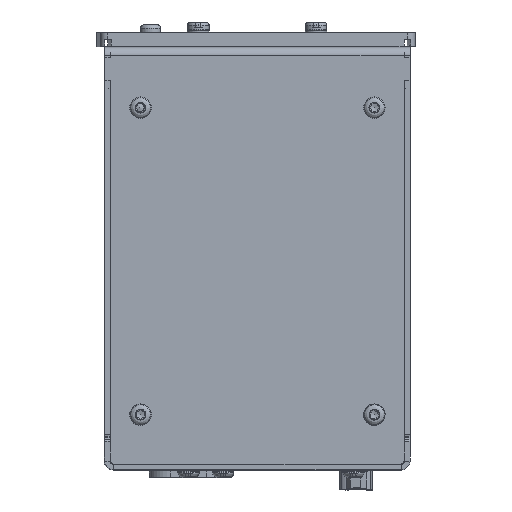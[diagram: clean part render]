
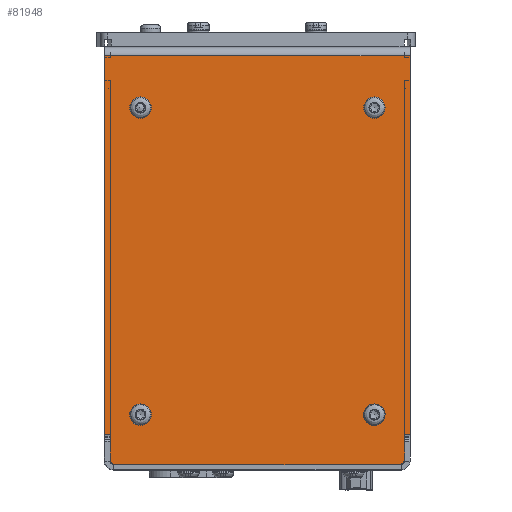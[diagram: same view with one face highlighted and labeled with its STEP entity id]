
A CAD part, front view. The second image highlights one B-rep face of the part: STEP entity #81948.
In plain terms, the highlighted planar face has unit normal (0.002, -1, 0).
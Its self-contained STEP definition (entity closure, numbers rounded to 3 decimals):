
#2097=FACE_BOUND('',#28586,.T.);
#2098=FACE_BOUND('',#28587,.T.);
#2099=FACE_BOUND('',#28588,.T.);
#2100=FACE_BOUND('',#28589,.T.);
#2948=PLANE('',#86677);
#6589=LINE('',#119085,#15241);
#6643=LINE('',#119250,#15295);
#6647=LINE('',#119257,#15299);
#6648=LINE('',#119260,#15300);
#6649=LINE('',#119262,#15301);
#6650=LINE('',#119264,#15302);
#6651=LINE('',#119266,#15303);
#6652=LINE('',#119268,#15304);
#6653=LINE('',#119269,#15305);
#6654=LINE('',#119270,#15306);
#15241=VECTOR('',#94869,10.);
#15295=VECTOR('',#95023,10.);
#15299=VECTOR('',#95029,10.);
#15300=VECTOR('',#95032,10.);
#15301=VECTOR('',#95033,10.);
#15302=VECTOR('',#95034,10.);
#15303=VECTOR('',#95035,10.);
#15304=VECTOR('',#95036,10.);
#15305=VECTOR('',#95037,10.);
#15306=VECTOR('',#95038,10.);
#24221=FACE_OUTER_BOUND('',#28585,.T.);
#28585=EDGE_LOOP('',(#57820,#57821,#57822,#57823,#57824,#57825,#57826,#57827,
#57828,#57829,#57830,#57831));
#28586=EDGE_LOOP('',(#57832));
#28587=EDGE_LOOP('',(#57833));
#28588=EDGE_LOOP('',(#57834));
#28589=EDGE_LOOP('',(#57835));
#32784=CIRCLE('',#86439,3.);
#32799=CIRCLE('',#86477,3.);
#32814=CIRCLE('',#86515,3.);
#32829=CIRCLE('',#86553,3.);
#32887=CIRCLE('',#86674,1.5);
#32889=CIRCLE('',#86678,1.5);
#35657=VERTEX_POINT('',#118377);
#35689=VERTEX_POINT('',#118537);
#35721=VERTEX_POINT('',#118697);
#35753=VERTEX_POINT('',#118857);
#35802=VERTEX_POINT('',#119077);
#35805=VERTEX_POINT('',#119083);
#35862=VERTEX_POINT('',#119240);
#35863=VERTEX_POINT('',#119242);
#35864=VERTEX_POINT('',#119246);
#35866=VERTEX_POINT('',#119249);
#35868=VERTEX_POINT('',#119256);
#35869=VERTEX_POINT('',#119258);
#35870=VERTEX_POINT('',#119261);
#35871=VERTEX_POINT('',#119263);
#35872=VERTEX_POINT('',#119265);
#35873=VERTEX_POINT('',#119267);
#44125=EDGE_CURVE('',#35657,#35657,#32784,.T.);
#44179=EDGE_CURVE('',#35689,#35689,#32799,.T.);
#44233=EDGE_CURVE('',#35721,#35721,#32814,.T.);
#44287=EDGE_CURVE('',#35753,#35753,#32829,.T.);
#44373=EDGE_CURVE('',#35802,#35805,#6589,.T.);
#44448=EDGE_CURVE('',#35862,#35863,#32887,.T.);
#44451=EDGE_CURVE('',#35866,#35864,#6643,.T.);
#44455=EDGE_CURVE('',#35862,#35868,#6647,.T.);
#44456=EDGE_CURVE('',#35869,#35868,#32889,.T.);
#44457=EDGE_CURVE('',#35869,#35802,#6648,.T.);
#44458=EDGE_CURVE('',#35805,#35870,#6649,.T.);
#44459=EDGE_CURVE('',#35871,#35870,#6650,.T.);
#44460=EDGE_CURVE('',#35871,#35872,#6651,.T.);
#44461=EDGE_CURVE('',#35873,#35872,#6652,.T.);
#44462=EDGE_CURVE('',#35873,#35866,#6653,.T.);
#44463=EDGE_CURVE('',#35863,#35864,#6654,.T.);
#57820=ORIENTED_EDGE('',*,*,#44448,.F.);
#57821=ORIENTED_EDGE('',*,*,#44455,.T.);
#57822=ORIENTED_EDGE('',*,*,#44456,.F.);
#57823=ORIENTED_EDGE('',*,*,#44457,.T.);
#57824=ORIENTED_EDGE('',*,*,#44373,.T.);
#57825=ORIENTED_EDGE('',*,*,#44458,.T.);
#57826=ORIENTED_EDGE('',*,*,#44459,.F.);
#57827=ORIENTED_EDGE('',*,*,#44460,.T.);
#57828=ORIENTED_EDGE('',*,*,#44461,.F.);
#57829=ORIENTED_EDGE('',*,*,#44462,.T.);
#57830=ORIENTED_EDGE('',*,*,#44451,.T.);
#57831=ORIENTED_EDGE('',*,*,#44463,.F.);
#57832=ORIENTED_EDGE('',*,*,#44125,.T.);
#57833=ORIENTED_EDGE('',*,*,#44179,.T.);
#57834=ORIENTED_EDGE('',*,*,#44233,.T.);
#57835=ORIENTED_EDGE('',*,*,#44287,.T.);
#81948=ADVANCED_FACE('',(#24221,#2097,#2098,#2099,#2100),#2948,.T.);
#86439=AXIS2_PLACEMENT_3D('',#118378,#94374,#94375);
#86477=AXIS2_PLACEMENT_3D('',#118538,#94477,#94478);
#86515=AXIS2_PLACEMENT_3D('',#118698,#94580,#94581);
#86553=AXIS2_PLACEMENT_3D('',#118858,#94683,#94684);
#86674=AXIS2_PLACEMENT_3D('',#119243,#95016,#95017);
#86677=AXIS2_PLACEMENT_3D('',#119255,#95027,#95028);
#86678=AXIS2_PLACEMENT_3D('',#119259,#95030,#95031);
#94374=DIRECTION('center_axis',(-0.002,1.,
0.));
#94375=DIRECTION('ref_axis',(-1.,-0.002,0.));
#94477=DIRECTION('center_axis',(-0.002,1.,
0.));
#94478=DIRECTION('ref_axis',(-1.,-0.002,0.));
#94580=DIRECTION('center_axis',(-0.002,1.,
0.));
#94581=DIRECTION('ref_axis',(-1.,-0.002,0.));
#94683=DIRECTION('center_axis',(-0.002,1.,
0.));
#94684=DIRECTION('ref_axis',(-1.,-0.002,0.));
#94869=DIRECTION('',(0.,0.,1.));
#95016=DIRECTION('center_axis',(-0.002,1.,
0.));
#95017=DIRECTION('ref_axis',(-0.707,-0.001,-0.707));
#95023=DIRECTION('',(0.,0.,-1.));
#95027=DIRECTION('center_axis',(0.002,-1.,
0.));
#95028=DIRECTION('ref_axis',(1.,0.002,0.));
#95029=DIRECTION('',(1.,0.002,0.));
#95030=DIRECTION('center_axis',(-0.002,1.,
0.));
#95031=DIRECTION('ref_axis',(0.707,0.001,-0.707));
#95032=DIRECTION('',(0.,0.,1.));
#95033=DIRECTION('',(1.,0.002,0.));
#95034=DIRECTION('',(0.,0.,-1.));
#95035=DIRECTION('',(-1.,-0.002,0.));
#95036=DIRECTION('',(0.,0.,1.));
#95037=DIRECTION('',(1.,0.002,0.));
#95038=DIRECTION('',(0.,0.,1.));
#118377=CARTESIAN_POINT('',(-190.104,92.471,32.991));
#118378=CARTESIAN_POINT('Origin',(-193.104,92.464,32.991));
#118537=CARTESIAN_POINT('',(-124.604,92.607,118.991));
#118538=CARTESIAN_POINT('Origin',(-127.604,92.6,118.991));
#118697=CARTESIAN_POINT('',(-190.104,92.471,118.991));
#118698=CARTESIAN_POINT('Origin',(-193.104,92.464,118.991));
#118857=CARTESIAN_POINT('',(-124.604,92.607,32.991));
#118858=CARTESIAN_POINT('Origin',(-127.604,92.6,32.991));
#119077=CARTESIAN_POINT('',(-119.104,92.618,25.491));
#119083=CARTESIAN_POINT('',(-119.104,92.618,27.491));
#119085=CARTESIAN_POINT('',(-119.104,92.618,52.516));
#119240=CARTESIAN_POINT('',(-200.104,92.45,18.991));
#119242=CARTESIAN_POINT('',(-201.604,92.447,20.491));
#119243=CARTESIAN_POINT('Origin',(-200.104,92.45,20.491));
#119246=CARTESIAN_POINT('',(-201.604,92.447,25.491));
#119249=CARTESIAN_POINT('',(-201.604,92.447,27.491));
#119250=CARTESIAN_POINT('',(-201.604,92.447,48.266));
#119255=CARTESIAN_POINT('Origin',(-160.354,92.532,77.541));
#119256=CARTESIAN_POINT('',(-120.604,92.615,18.991));
#119257=CARTESIAN_POINT('',(-117.604,92.621,18.991));
#119258=CARTESIAN_POINT('',(-119.104,92.618,20.491));
#119259=CARTESIAN_POINT('Origin',(-120.604,92.615,20.491));
#119260=CARTESIAN_POINT('',(-119.104,92.618,17.391));
#119261=CARTESIAN_POINT('',(-117.604,92.621,27.491));
#119262=CARTESIAN_POINT('',(-138.979,92.577,27.491));
#119263=CARTESIAN_POINT('',(-117.604,92.621,133.491));
#119264=CARTESIAN_POINT('',(-117.604,92.621,133.491));
#119265=CARTESIAN_POINT('',(-203.104,92.444,133.491));
#119266=CARTESIAN_POINT('',(-160.354,92.532,133.491));
#119267=CARTESIAN_POINT('',(-203.104,92.444,27.491));
#119268=CARTESIAN_POINT('',(-203.104,92.444,136.091));
#119269=CARTESIAN_POINT('',(-180.979,92.49,27.491));
#119270=CARTESIAN_POINT('',(-201.604,92.447,17.391));
